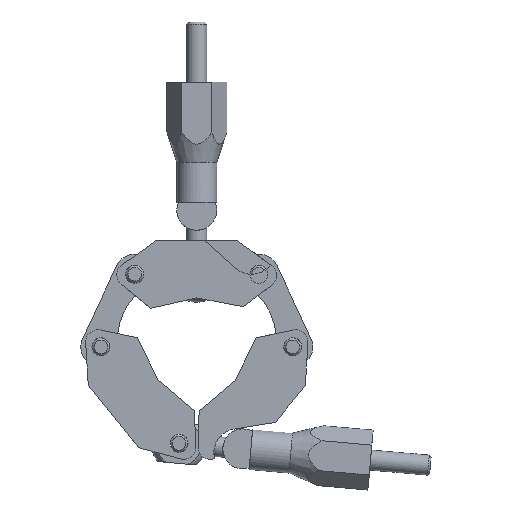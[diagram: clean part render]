
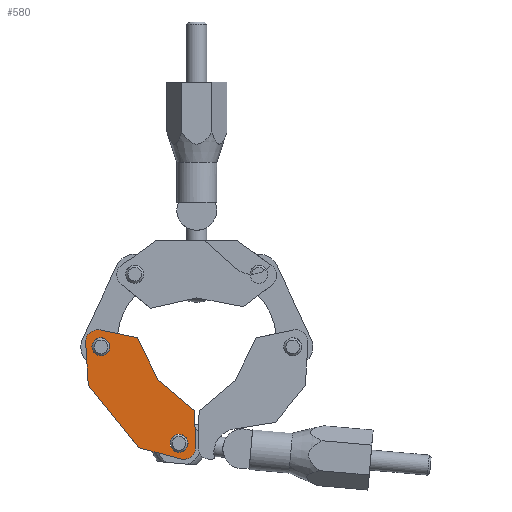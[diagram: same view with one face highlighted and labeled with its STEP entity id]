
A CAD part, front view. The second image highlights one B-rep face of the part: STEP entity #580.
In plain terms, the highlighted planar face has unit normal (0, -1, 0) as drawn and (0, 1, 0) by its records, which use the part's own axes.
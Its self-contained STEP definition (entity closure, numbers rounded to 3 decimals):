
#580 = ADVANCED_FACE( '', ( #1096, #1097, #1098 ), #1099, .T. );
#1096 = FACE_BOUND( '', #1480, .T. );
#1097 = FACE_BOUND( '', #1481, .T. );
#1098 = FACE_OUTER_BOUND( '', #1482, .T. );
#1099 = PLANE( '', #1483 );
#1480 = EDGE_LOOP( '', ( #2275 ) );
#1481 = EDGE_LOOP( '', ( #2276 ) );
#1482 = EDGE_LOOP( '', ( #2277, #2278, #2279, #2280, #2281, #2282, #2283, #2284, #2285 ) );
#1483 = AXIS2_PLACEMENT_3D( '', #2286, #2287, #2288 );
#2275 = ORIENTED_EDGE( '', *, *, #3041, .F. );
#2276 = ORIENTED_EDGE( '', *, *, #3042, .F. );
#2277 = ORIENTED_EDGE( '', *, *, #3040, .T. );
#2278 = ORIENTED_EDGE( '', *, *, #3043, .T. );
#2279 = ORIENTED_EDGE( '', *, *, #3044, .T. );
#2280 = ORIENTED_EDGE( '', *, *, #3045, .T. );
#2281 = ORIENTED_EDGE( '', *, *, #3046, .T. );
#2282 = ORIENTED_EDGE( '', *, *, #2998, .T. );
#2283 = ORIENTED_EDGE( '', *, *, #2981, .T. );
#2284 = ORIENTED_EDGE( '', *, *, #3047, .T. );
#2285 = ORIENTED_EDGE( '', *, *, #3037, .T. );
#2286 = CARTESIAN_POINT( '', ( -17.002, 10.25, -0.164 ) );
#2287 = DIRECTION( '', ( 0., 1., 0. ) );
#2288 = DIRECTION( '', ( 0., 0., 1. ) );
#2981 = EDGE_CURVE( '', #3438, #3436, #3439, .T. );
#2998 = EDGE_CURVE( '', #3469, #3438, #3470, .T. );
#3037 = EDGE_CURVE( '', #3536, #3534, #3537, .T. );
#3040 = EDGE_CURVE( '', #3534, #3539, #3541, .T. );
#3041 = EDGE_CURVE( '', #3542, #3542, #3543, .T. );
#3042 = EDGE_CURVE( '', #3544, #3544, #3545, .T. );
#3043 = EDGE_CURVE( '', #3539, #3546, #3547, .T. );
#3044 = EDGE_CURVE( '', #3546, #3548, #3549, .T. );
#3045 = EDGE_CURVE( '', #3548, #3550, #3551, .T. );
#3046 = EDGE_CURVE( '', #3550, #3469, #3552, .T. );
#3047 = EDGE_CURVE( '', #3436, #3536, #3553, .T. );
#3436 = VERTEX_POINT( '', #3942 );
#3438 = VERTEX_POINT( '', #3945 );
#3439 = LINE( '', #3946, #3947 );
#3469 = VERTEX_POINT( '', #3991 );
#3470 = LINE( '', #3992, #3993 );
#3534 = VERTEX_POINT( '', #4090 );
#3536 = VERTEX_POINT( '', #4093 );
#3537 = LINE( '', #4094, #4095 );
#3539 = VERTEX_POINT( '', #4098 );
#3541 = LINE( '', #4101, #4102 );
#3542 = VERTEX_POINT( '', #4103 );
#3543 = CIRCLE( '', #4104, 2.25 );
#3544 = VERTEX_POINT( '', #4105 );
#3545 = CIRCLE( '', #4106, 2.25 );
#3546 = VERTEX_POINT( '', #4107 );
#3547 = LINE( '', #4108, #4109 );
#3548 = VERTEX_POINT( '', #4110 );
#3549 = LINE( '', #4111, #4112 );
#3550 = VERTEX_POINT( '', #4113 );
#3551 = CIRCLE( '', #4114, 3. );
#3552 = LINE( '', #4115, #4116 );
#3553 = CIRCLE( '', #4117, 3. );
#3942 = CARTESIAN_POINT( '', ( 18.756, 10.25, 2.173 ) );
#3945 = CARTESIAN_POINT( '', ( 10.005, 10.25, 8.5 ) );
#3946 = CARTESIAN_POINT( '', ( 10.005, 10.25, 8.5 ) );
#3947 = VECTOR( '', #4797, 1000. );
#3991 = CARTESIAN_POINT( '', ( -10.005, 10.25, 8.5 ) );
#3992 = CARTESIAN_POINT( '', ( -10.005, 10.25, 8.5 ) );
#3993 = VECTOR( '', #4818, 1000. );
#4090 = CARTESIAN_POINT( '', ( 11.624, 10.25, -8.112 ) );
#4093 = CARTESIAN_POINT( '', ( 18.814, 10.25, -2.646 ) );
#4094 = CARTESIAN_POINT( '', ( 18.814, 10.25, -2.646 ) );
#4095 = VECTOR( '', #4865, 1000. );
#4098 = CARTESIAN_POINT( '', ( 0., 10.25, -5.911 ) );
#4101 = CARTESIAN_POINT( '', ( 11.624, 10.25, -8.112 ) );
#4102 = VECTOR( '', #4868, 1000. );
#4103 = CARTESIAN_POINT( '', ( -15.5, 10.25, 2.25 ) );
#4104 = AXIS2_PLACEMENT_3D( '', #4869, #4870, #4871 );
#4105 = CARTESIAN_POINT( '', ( 15.5, 10.25, 2.25 ) );
#4106 = AXIS2_PLACEMENT_3D( '', #4872, #4873, #4874 );
#4107 = CARTESIAN_POINT( '', ( -11.543, 10.25, -8.5 ) );
#4108 = CARTESIAN_POINT( '', ( 0., 10.25, -5.911 ) );
#4109 = VECTOR( '', #4875, 1000. );
#4110 = CARTESIAN_POINT( '', ( -18.9, 10.25, -2.487 ) );
#4111 = CARTESIAN_POINT( '', ( -11.543, 10.25, -8.5 ) );
#4112 = VECTOR( '', #4876, 1000. );
#4113 = CARTESIAN_POINT( '', ( -18.742, 10.25, 2.28 ) );
#4114 = AXIS2_PLACEMENT_3D( '', #4877, #4878, #4879 );
#4115 = CARTESIAN_POINT( '', ( -18.742, 10.25, 2.28 ) );
#4116 = VECTOR( '', #4880, 1000. );
#4117 = AXIS2_PLACEMENT_3D( '', #4881, #4882, #4883 );
#4797 = DIRECTION( '', ( 0.81, 0., -0.586 ) );
#4818 = DIRECTION( '', ( 1., 0., 0. ) );
#4865 = DIRECTION( '', ( -0.796, 0., -0.605 ) );
#4868 = DIRECTION( '', ( -0.983, 0., 0.186 ) );
#4869 = CARTESIAN_POINT( '', ( -15.5, 10.25, 0. ) );
#4870 = DIRECTION( '', ( 0., 1., 0. ) );
#4871 = DIRECTION( '', ( 0., 0., 1. ) );
#4872 = CARTESIAN_POINT( '', ( 15.5, 10.25, 0. ) );
#4873 = DIRECTION( '', ( 0., 1., 0. ) );
#4874 = DIRECTION( '', ( 0., 0., 1. ) );
#4875 = DIRECTION( '', ( -0.976, 0., -0.219 ) );
#4876 = DIRECTION( '', ( -0.774, 0., 0.633 ) );
#4877 = CARTESIAN_POINT( '', ( -17.002, 10.25, -0.164 ) );
#4878 = DIRECTION( '', ( 0., 1., 0. ) );
#4879 = DIRECTION( '', ( 1., 0., 0. ) );
#4880 = DIRECTION( '', ( 0.815, 0., 0.58 ) );
#4881 = CARTESIAN_POINT( '', ( 16.998, 10.25, -0.258 ) );
#4882 = DIRECTION( '', ( 0., 1., 0. ) );
#4883 = DIRECTION( '', ( -1., 0., 0. ) );
